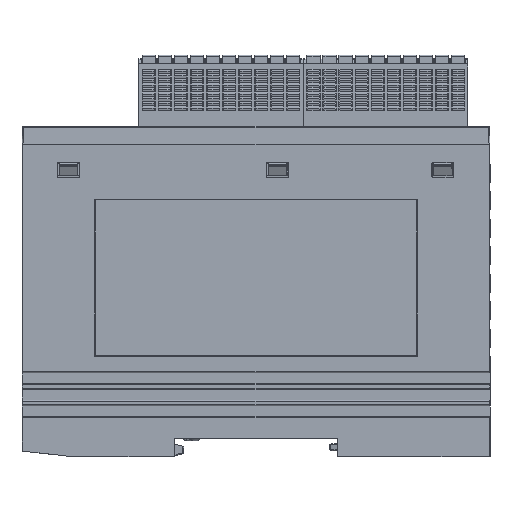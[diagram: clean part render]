
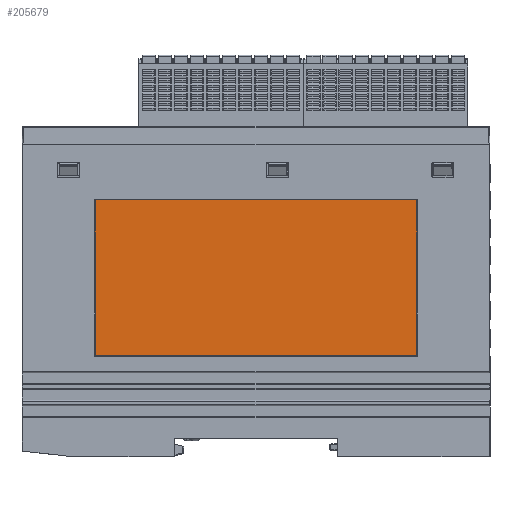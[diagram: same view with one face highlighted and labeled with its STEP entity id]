
A CAD part, left-side view. The second image highlights one B-rep face of the part: STEP entity #205679.
In plain terms, the highlighted planar face has unit normal (-1, 0, 0).
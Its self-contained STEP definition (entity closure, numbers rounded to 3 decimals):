
#68106=DIRECTION('',(0.,1.,0.));
#68107=VECTOR('',#68106,70.);
#68108=CARTESIAN_POINT('',(-12.3,-35.,-46.));
#68109=LINE('',#68108,#68107);
#68110=DIRECTION('',(0.,0.,1.));
#68111=VECTOR('',#68110,34.);
#68112=CARTESIAN_POINT('',(-12.3,35.,-46.));
#68113=LINE('',#68112,#68111);
#68114=DIRECTION('',(0.,-1.,0.));
#68115=VECTOR('',#68114,70.);
#68116=CARTESIAN_POINT('',(-12.3,35.,-12.));
#68117=LINE('',#68116,#68115);
#68118=DIRECTION('',(0.,0.,-1.));
#68119=VECTOR('',#68118,34.);
#68120=CARTESIAN_POINT('',(-12.3,-35.,-12.));
#68121=LINE('',#68120,#68119);
#87918=CARTESIAN_POINT('',(-12.3,35.,-46.));
#87919=VERTEX_POINT('',#87918);
#87920=CARTESIAN_POINT('',(-12.3,-35.,-46.));
#87921=VERTEX_POINT('',#87920);
#87922=CARTESIAN_POINT('',(-12.3,35.,-12.));
#87923=VERTEX_POINT('',#87922);
#87924=CARTESIAN_POINT('',(-12.3,-35.,-12.));
#87925=VERTEX_POINT('',#87924);
#205668=CARTESIAN_POINT('',(-12.3,0.,0.));
#205669=DIRECTION('',(-1.,0.,0.));
#205670=DIRECTION('',(0.,0.,1.));
#205671=AXIS2_PLACEMENT_3D('',#205668,#205669,#205670);
#205672=PLANE('',#205671);
#205673=ORIENTED_EDGE('',*,*,#205607,.T.);
#205674=ORIENTED_EDGE('',*,*,#205623,.T.);
#205675=ORIENTED_EDGE('',*,*,#205649,.T.);
#205676=ORIENTED_EDGE('',*,*,#205662,.T.);
#205677=EDGE_LOOP('',(#205673,#205674,#205675,#205676));
#205678=FACE_OUTER_BOUND('',#205677,.F.);
#205679=ADVANCED_FACE('',(#205678),#205672,.T.);
#205607=EDGE_CURVE('',#87921,#87919,#68109,.T.);
#205623=EDGE_CURVE('',#87919,#87923,#68113,.T.);
#205649=EDGE_CURVE('',#87923,#87925,#68117,.T.);
#205662=EDGE_CURVE('',#87925,#87921,#68121,.T.);
